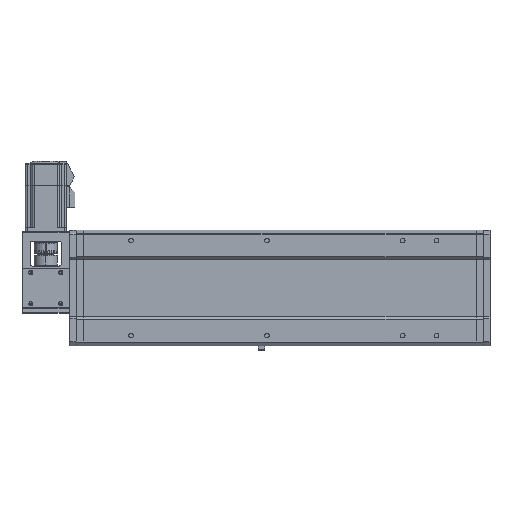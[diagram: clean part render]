
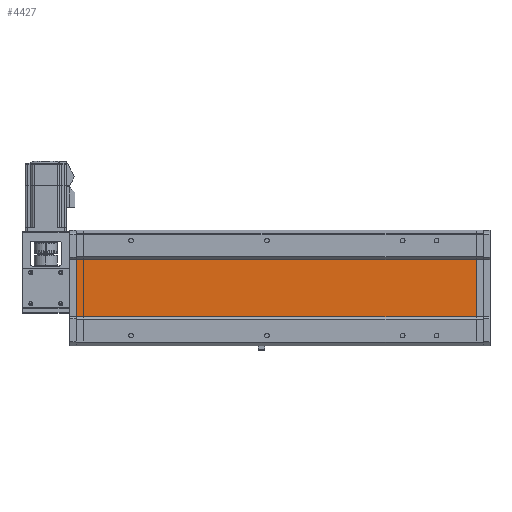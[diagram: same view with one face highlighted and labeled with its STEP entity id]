
A CAD part, front view. The second image highlights one B-rep face of the part: STEP entity #4427.
In plain terms, the highlighted planar face has unit normal (0, -1, 0).
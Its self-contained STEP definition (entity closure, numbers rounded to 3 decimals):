
#399=DIRECTION('',(0.,0.,-1.));
#400=VECTOR('',#399,84.);
#401=CARTESIAN_POINT('',(561.5,4.,42.));
#402=LINE('',#401,#400);
#1125=DIRECTION('',(1.,0.,0.));
#1126=VECTOR('',#1125,599.);
#1127=CARTESIAN_POINT('',(-37.5,4.,-42.));
#1128=LINE('',#1127,#1126);
#1129=DIRECTION('',(1.,0.,0.));
#1130=VECTOR('',#1129,599.);
#1131=CARTESIAN_POINT('',(-37.5,4.,42.));
#1132=LINE('',#1131,#1130);
#1627=DIRECTION('',(0.,0.,-1.));
#1628=VECTOR('',#1627,84.);
#1629=CARTESIAN_POINT('',(-37.5,4.,42.));
#1630=LINE('',#1629,#1628);
#2237=CARTESIAN_POINT('',(-37.5,4.,42.));
#2238=VERTEX_POINT('',#2237);
#2239=CARTESIAN_POINT('',(-37.5,4.,-42.));
#2240=VERTEX_POINT('',#2239);
#2433=CARTESIAN_POINT('',(561.5,4.,42.));
#2434=VERTEX_POINT('',#2433);
#2435=CARTESIAN_POINT('',(561.5,4.,-42.));
#2436=VERTEX_POINT('',#2435);
#4414=CARTESIAN_POINT('',(260.,4.,0.));
#4415=DIRECTION('',(0.,1.,0.));
#4416=DIRECTION('',(0.,0.,1.));
#4417=AXIS2_PLACEMENT_3D('',#4414,#4415,#4416);
#4418=PLANE('',#4417);
#4420=ORIENTED_EDGE('',*,*,#4419,.T.);
#4421=ORIENTED_EDGE('',*,*,#3585,.T.);
#4422=ORIENTED_EDGE('',*,*,#4405,.F.);
#4424=ORIENTED_EDGE('',*,*,#4423,.F.);
#4425=EDGE_LOOP('',(#4420,#4421,#4422,#4424));
#4426=FACE_OUTER_BOUND('',#4425,.F.);
#3585=EDGE_CURVE('',#2434,#2436,#402,.T.);
#4405=EDGE_CURVE('',#2240,#2436,#1128,.T.);
#4419=EDGE_CURVE('',#2238,#2434,#1132,.T.);
#4423=EDGE_CURVE('',#2238,#2240,#1630,.T.);
#4427=ADVANCED_FACE('',(#4426),#4418,.F.);
